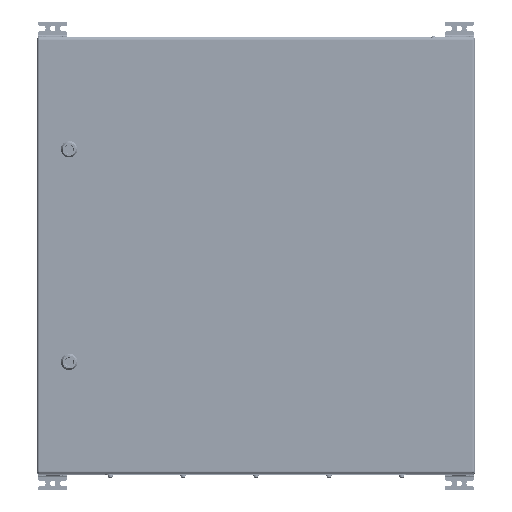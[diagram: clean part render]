
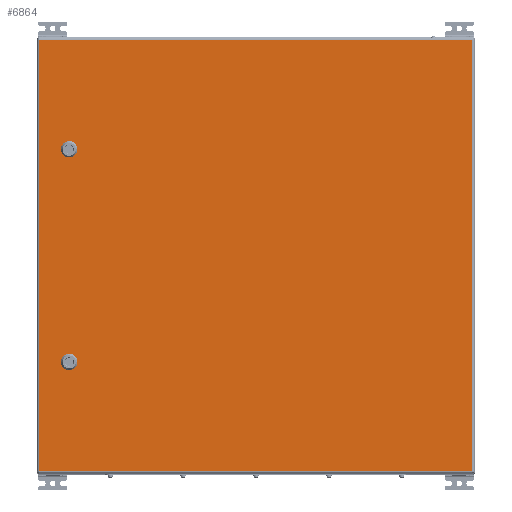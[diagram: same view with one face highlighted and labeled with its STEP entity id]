
A CAD part, top view. The second image highlights one B-rep face of the part: STEP entity #6864.
In plain terms, the highlighted planar face has unit normal (0, 0, 1).
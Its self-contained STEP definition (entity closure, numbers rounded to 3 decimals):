
#6864=ADVANCED_FACE('',(#15280,#15282,#15284),#15286,.T.);
#15280=FACE_BOUND('',#15281,.T.);
#15281=EDGE_LOOP('',(#38412,#38413,#38414,#38415));
#15282=FACE_BOUND('',#15283,.T.);
#15283=EDGE_LOOP('',(#38416,#38417,#38418,#38419,#38420,#38421,#38422,#38423));
#15284=FACE_BOUND('',#15285,.T.);
#15285=EDGE_LOOP('',(#38424,#38425,#38426,#38427,#38428,#38429,#38430,#38431));
#15286=PLANE('',#15287);
#15287=AXIS2_PLACEMENT_3D('',#15288,#15289,#15290);
#15288=CARTESIAN_POINT('',(0.,0.,1.5));
#15289=DIRECTION('',(0.,0.,1.));
#15290=DIRECTION('',(1.,0.,0.));
#38412=ORIENTED_EDGE('',*,*,#43001,.T.);
#38413=ORIENTED_EDGE('',*,*,#43002,.T.);
#38414=ORIENTED_EDGE('',*,*,#43003,.T.);
#38415=ORIENTED_EDGE('',*,*,#43004,.T.);
#38416=ORIENTED_EDGE('',*,*,#42967,.T.);
#38417=ORIENTED_EDGE('',*,*,#42981,.T.);
#38418=ORIENTED_EDGE('',*,*,#42979,.T.);
#38419=ORIENTED_EDGE('',*,*,#42977,.T.);
#38420=ORIENTED_EDGE('',*,*,#42975,.T.);
#38421=ORIENTED_EDGE('',*,*,#42973,.T.);
#38422=ORIENTED_EDGE('',*,*,#42971,.T.);
#38423=ORIENTED_EDGE('',*,*,#42969,.T.);
#38424=ORIENTED_EDGE('',*,*,#42951,.T.);
#38425=ORIENTED_EDGE('',*,*,#42965,.T.);
#38426=ORIENTED_EDGE('',*,*,#42963,.T.);
#38427=ORIENTED_EDGE('',*,*,#42961,.T.);
#38428=ORIENTED_EDGE('',*,*,#42959,.T.);
#38429=ORIENTED_EDGE('',*,*,#42957,.T.);
#38430=ORIENTED_EDGE('',*,*,#42955,.T.);
#38431=ORIENTED_EDGE('',*,*,#42953,.T.);
#42951=EDGE_CURVE('',#46701,#46699,#46702,.T.);
#42953=EDGE_CURVE('',#46704,#46701,#46705,.F.);
#42955=EDGE_CURVE('',#46707,#46704,#46708,.T.);
#42957=EDGE_CURVE('',#46710,#46707,#46711,.F.);
#42959=EDGE_CURVE('',#46713,#46710,#46714,.T.);
#42961=EDGE_CURVE('',#46716,#46713,#46717,.F.);
#42963=EDGE_CURVE('',#46719,#46716,#46720,.T.);
#42965=EDGE_CURVE('',#46699,#46719,#46722,.F.);
#42967=EDGE_CURVE('',#46725,#46723,#46726,.T.);
#42969=EDGE_CURVE('',#46728,#46725,#46729,.F.);
#42971=EDGE_CURVE('',#46731,#46728,#46732,.T.);
#42973=EDGE_CURVE('',#46734,#46731,#46735,.F.);
#42975=EDGE_CURVE('',#46737,#46734,#46738,.T.);
#42977=EDGE_CURVE('',#46740,#46737,#46741,.F.);
#42979=EDGE_CURVE('',#46743,#46740,#46744,.T.);
#42981=EDGE_CURVE('',#46723,#46743,#46746,.F.);
#43001=EDGE_CURVE('',#46775,#46776,#46777,.T.);
#43002=EDGE_CURVE('',#46776,#46778,#46779,.T.);
#43003=EDGE_CURVE('',#46778,#46780,#46781,.T.);
#43004=EDGE_CURVE('',#46780,#46775,#46782,.T.);
#46699=VERTEX_POINT('',#56052);
#46701=VERTEX_POINT('',#56056);
#46702=CIRCLE('',#56057,11.25);
#46704=VERTEX_POINT('',#56064);
#46705=LINE('',#56065,#56066);
#46707=VERTEX_POINT('',#56071);
#46708=CIRCLE('',#56072,11.25);
#46710=VERTEX_POINT('',#56079);
#46711=LINE('',#56080,#56081);
#46713=VERTEX_POINT('',#56086);
#46714=CIRCLE('',#56087,11.25);
#46716=VERTEX_POINT('',#56094);
#46717=LINE('',#56095,#56096);
#46719=VERTEX_POINT('',#56101);
#46720=CIRCLE('',#56102,11.25);
#46722=LINE('',#56109,#56110);
#46723=VERTEX_POINT('',#56112);
#46725=VERTEX_POINT('',#56116);
#46726=CIRCLE('',#56117,11.25);
#46728=VERTEX_POINT('',#56124);
#46729=LINE('',#56125,#56126);
#46731=VERTEX_POINT('',#56131);
#46732=CIRCLE('',#56132,11.25);
#46734=VERTEX_POINT('',#56139);
#46735=LINE('',#56140,#56141);
#46737=VERTEX_POINT('',#56146);
#46738=CIRCLE('',#56147,11.25);
#46740=VERTEX_POINT('',#56154);
#46741=LINE('',#56155,#56156);
#46743=VERTEX_POINT('',#56161);
#46744=CIRCLE('',#56162,11.25);
#46746=LINE('',#56169,#56170);
#46775=VERTEX_POINT('',#56239);
#46776=VERTEX_POINT('',#56240);
#46777=LINE('',#56241,#56242);
#46778=VERTEX_POINT('',#56244);
#46779=LINE('',#56245,#56246);
#46780=VERTEX_POINT('',#56248);
#46781=LINE('',#56249,#56250);
#46782=LINE('',#56252,#56253);
#56052=CARTESIAN_POINT('',(-593.955,-44.4,1.5));
#56056=CARTESIAN_POINT('',(-599.1,-49.545,1.5));
#56057=AXIS2_PLACEMENT_3D('',#56058,#56059,#56060);
#56058=CARTESIAN_POINT('',(-589.,-54.5,1.5));
#56059=DIRECTION('',(0.,0.,-1.));
#56060=DIRECTION('',(-0.898,0.44,0.));
#56064=CARTESIAN_POINT('',(-599.1,-59.455,1.5));
#56065=CARTESIAN_POINT('',(-599.1,-49.545,1.5));
#56066=VECTOR('',#56067,1.);
#56067=DIRECTION('',(0.,-1.,0.));
#56071=CARTESIAN_POINT('',(-593.955,-64.6,1.5));
#56072=AXIS2_PLACEMENT_3D('',#56073,#56074,#56075);
#56073=CARTESIAN_POINT('',(-589.,-54.5,1.5));
#56074=DIRECTION('',(0.,0.,-1.));
#56075=DIRECTION('',(-0.44,-0.898,0.));
#56079=CARTESIAN_POINT('',(-584.045,-64.6,1.5));
#56080=CARTESIAN_POINT('',(-593.955,-64.6,1.5));
#56081=VECTOR('',#56082,1.);
#56082=DIRECTION('',(1.,0.,0.));
#56086=CARTESIAN_POINT('',(-578.9,-59.455,1.5));
#56087=AXIS2_PLACEMENT_3D('',#56088,#56089,#56090);
#56088=CARTESIAN_POINT('',(-589.,-54.5,1.5));
#56089=DIRECTION('',(0.,0.,-1.));
#56090=DIRECTION('',(0.898,-0.44,0.));
#56094=CARTESIAN_POINT('',(-578.9,-49.545,1.5));
#56095=CARTESIAN_POINT('',(-578.9,-59.455,1.5));
#56096=VECTOR('',#56097,1.);
#56097=DIRECTION('',(0.,1.,0.));
#56101=CARTESIAN_POINT('',(-584.045,-44.4,1.5));
#56102=AXIS2_PLACEMENT_3D('',#56103,#56104,#56105);
#56103=CARTESIAN_POINT('',(-589.,-54.5,1.5));
#56104=DIRECTION('',(0.,0.,-1.));
#56105=DIRECTION('',(0.44,0.898,0.));
#56109=CARTESIAN_POINT('',(-584.045,-44.4,1.5));
#56110=VECTOR('',#56111,1.);
#56111=DIRECTION('',(-1.,0.,0.));
#56112=CARTESIAN_POINT('',(-204.955,-44.4,1.5));
#56116=CARTESIAN_POINT('',(-210.1,-49.545,1.5));
#56117=AXIS2_PLACEMENT_3D('',#56118,#56119,#56120);
#56118=CARTESIAN_POINT('',(-200.,-54.5,1.5));
#56119=DIRECTION('',(0.,0.,-1.));
#56120=DIRECTION('',(-0.898,0.44,0.));
#56124=CARTESIAN_POINT('',(-210.1,-59.455,1.5));
#56125=CARTESIAN_POINT('',(-210.1,-49.545,1.5));
#56126=VECTOR('',#56127,1.);
#56127=DIRECTION('',(0.,-1.,0.));
#56131=CARTESIAN_POINT('',(-204.955,-64.6,1.5));
#56132=AXIS2_PLACEMENT_3D('',#56133,#56134,#56135);
#56133=CARTESIAN_POINT('',(-200.,-54.5,1.5));
#56134=DIRECTION('',(0.,0.,-1.));
#56135=DIRECTION('',(-0.44,-0.898,0.));
#56139=CARTESIAN_POINT('',(-195.045,-64.6,1.5));
#56140=CARTESIAN_POINT('',(-204.955,-64.6,1.5));
#56141=VECTOR('',#56142,1.);
#56142=DIRECTION('',(1.,0.,0.));
#56146=CARTESIAN_POINT('',(-189.9,-59.455,1.5));
#56147=AXIS2_PLACEMENT_3D('',#56148,#56149,#56150);
#56148=CARTESIAN_POINT('',(-200.,-54.5,1.5));
#56149=DIRECTION('',(0.,0.,-1.));
#56150=DIRECTION('',(0.898,-0.44,0.));
#56154=CARTESIAN_POINT('',(-189.9,-49.545,1.5));
#56155=CARTESIAN_POINT('',(-189.9,-59.455,1.5));
#56156=VECTOR('',#56157,1.);
#56157=DIRECTION('',(0.,1.,0.));
#56161=CARTESIAN_POINT('',(-195.045,-44.4,1.5));
#56162=AXIS2_PLACEMENT_3D('',#56163,#56164,#56165);
#56163=CARTESIAN_POINT('',(-200.,-54.5,1.5));
#56164=DIRECTION('',(0.,0.,-1.));
#56165=DIRECTION('',(0.44,0.898,0.));
#56169=CARTESIAN_POINT('',(-195.045,-44.4,1.5));
#56170=VECTOR('',#56171,1.);
#56171=DIRECTION('',(-1.,0.,0.));
#56239=CARTESIAN_POINT('',(-789.,0.,1.5));
#56240=CARTESIAN_POINT('',(-789.,-792.,1.5));
#56241=CARTESIAN_POINT('',(-789.,0.,1.5));
#56242=VECTOR('',#56243,1.);
#56243=DIRECTION('',(0.,-1.,0.));
#56244=CARTESIAN_POINT('',(0.,-792.,1.5));
#56245=CARTESIAN_POINT('',(-789.,-792.,1.5));
#56246=VECTOR('',#56247,1.);
#56247=DIRECTION('',(1.,0.,0.));
#56248=CARTESIAN_POINT('',(0.,0.,1.5));
#56249=CARTESIAN_POINT('',(0.,-792.,1.5));
#56250=VECTOR('',#56251,1.);
#56251=DIRECTION('',(0.,1.,0.));
#56252=CARTESIAN_POINT('',(0.,0.,1.5));
#56253=VECTOR('',#56254,1.);
#56254=DIRECTION('',(-1.,0.,0.));
